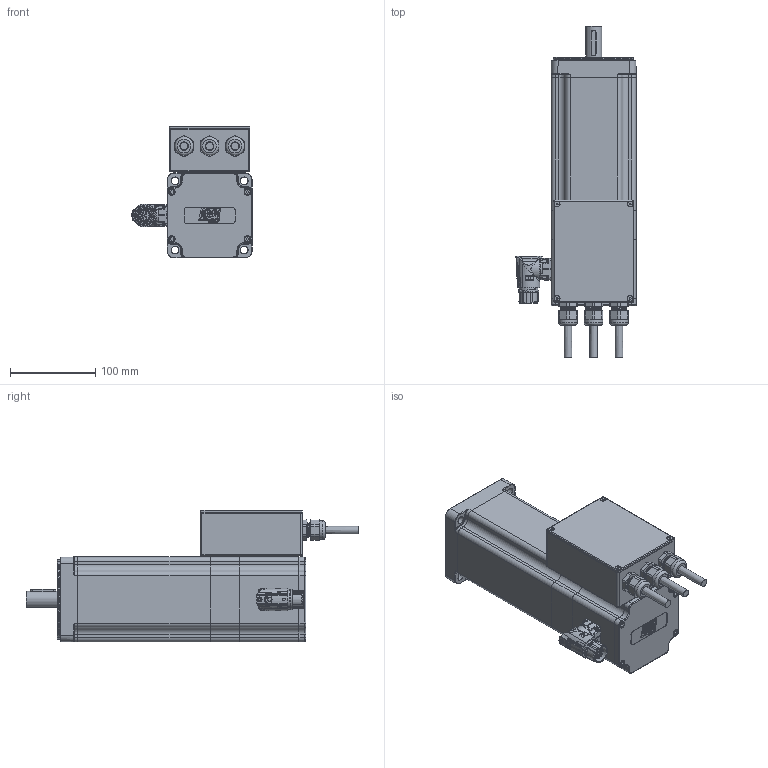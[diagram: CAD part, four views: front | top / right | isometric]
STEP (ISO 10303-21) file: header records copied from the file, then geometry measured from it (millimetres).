
FILE_DESCRIPTION(/* description */ ('Unknown'),/* implementation_level */ '2;1');
FILE_NAME(/* name */ 'TC4-100.4B LV M1 FRENO MORS Q0BQ22',/* time_stamp */ '2026-06-10T08:27:00+02:00',/* author */ ('Unknown'),/* organization */ ('Unknown'),/* preprocessor_version */ 'ST-DEVELOPER v19.4',/* originating_system */ 'Solid Edge',/* authorisation */ 'Unknown');
FILE_SCHEMA (('AUTOMOTIVE_DESIGN {1 0 10303 214 3 1 1}'));
Products named in the file (23): Q0BQ22 4B FRENO M1 VUOTO; 005119000312; 003303000000; 005911000185; 005113000500; Calotta TC4 100 LV asola maggiorata V2 FRENO; Albero TC4-100 H 90 LV A19 CH PR. R1 FRENO STD; 005911000297; Distanziale campana  4B PR MORS; 003107003287; scatola post; 005911000200; capicorda a occhiello A 3 M8; cavo AWG 6 uscita 8,9 curv; guar scatola; 005603001500; 007117000454; 005911000262; coperchio scatola morsettiera; 005911000208; dispersore TC4-100 4B LV M3; 003251040721; 003355001215
Assembly tree (43 placements, depth 2):
  Q0BQ22 4B FRENO M1 VUOTO
    005119000312
    003303000000
    005911000185  x4
    005113000500
    Calotta TC4 100 LV asola maggiorata V2 FRENO
    Albero TC4-100 H 90 LV A19 CH PR. R1 FRENO STD
    005911000297  x4
    Distanziale campana  4B PR MORS
    003107003287
    scatola post
    005911000200  x4
    capicorda a occhiello A 3 M8  x3
    cavo AWG 6 uscita 8,9 curv  x3
    guar scatola
    005603001500  x3
    007117000454
    005911000262  x4
    coperchio scatola morsettiera
    005911000208  x4
    dispersore TC4-100 4B LV M3
    003251040721
    003355001215
Bounding box: 141.4 x 390.51 x 155.2 mm (x, y, z)
Volume: 1143871.2 mm3; surface area: 463054.5 mm2
Topology: 45 solids, 45 shells, 2333 faces, 5788 edges, 3702 vertices
Faces by surface type: plane 1056, cylinder 614, cone 250, bspline 231, torus 116, sphere 66
Full cylindrical faces by diameter (mm): 0.5 x1, 1 x17, 1.2 x17, 2.013 x4, 2.459 x12, 2.5 x4, 2.52 x4, 3 x20, 3.242 x48, 3.3 x1, 3.5 x8, 4 x9, 4.3 x1, 4.5 x17, 4.7 x4, 4.917 x3, 5.5 x5, 5.8 x3, 5.9 x1, 6.4 x1, 7 x8, 7.8 x3, 8 x11, 8.004 x4, 8.4 x3, 10.2 x3, 13.5 x3, 15.2 x1, 16.99 x1, 17 x1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
Entity records: 77267 total; most frequent: CARTESIAN_POINT 21026, DIRECTION 8783, ORIENTED_EDGE 8744, EDGE_CURVE 4372, AXIS2_PLACEMENT_3D 3389, VERTEX_POINT 3032, FACE_BOUND 2690, EDGE_LOOP 2658
